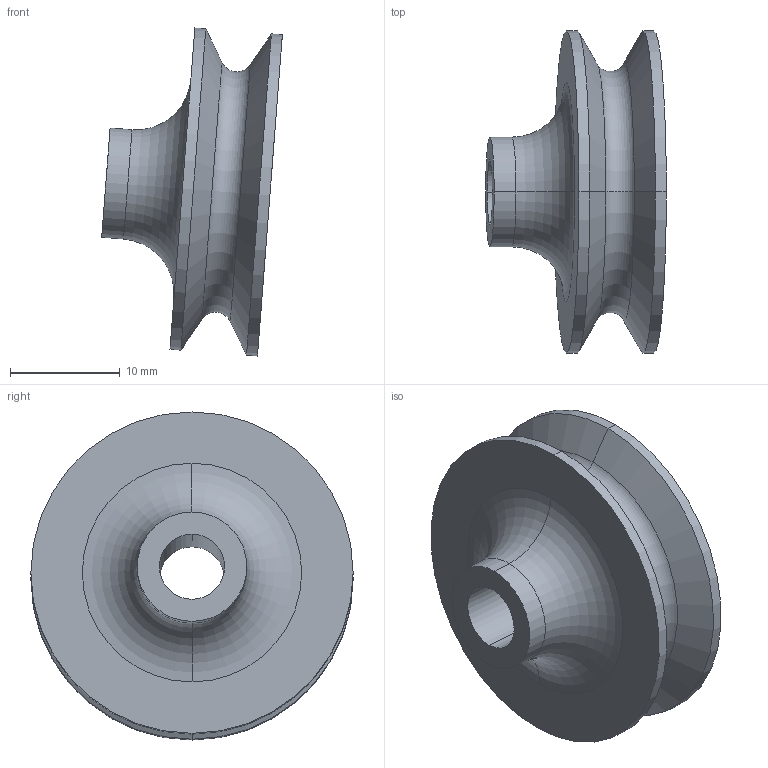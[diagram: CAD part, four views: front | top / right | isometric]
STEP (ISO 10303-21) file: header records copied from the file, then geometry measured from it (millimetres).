
FILE_DESCRIPTION((''),'2;1');
FILE_NAME('0000237053_PRT','2025-11-12T18:32:56',('Wyndorps'),(''),'CREO PARAMETRIC BY PTC INC, 2025010','CREO PARAMETRIC BY PTC INC, 2025010','');
FILE_SCHEMA(('CONFIG_CONTROL_DESIGN'));
Length unit declared in the file: millimetre
Products named in the file (1): 0000237053_PRT
Bounding box: 16.48 x 29.39 x 29.92 mm (x, y, z)
Volume: 4599.9 mm3; surface area: 2717.6 mm2
Topology: 1 solids, 1 shells, 19 faces, 38 edges, 22 vertices
Faces by surface type: cylinder 8, torus 4, cone 4, plane 3
Entity records: 540 total; most frequent: DIRECTION 102, CARTESIAN_POINT 79, ORIENTED_EDGE 76, AXIS2_PLACEMENT_3D 45, EDGE_CURVE 38, CIRCLE 26, VERTEX_POINT 22, EDGE_LOOP 22
